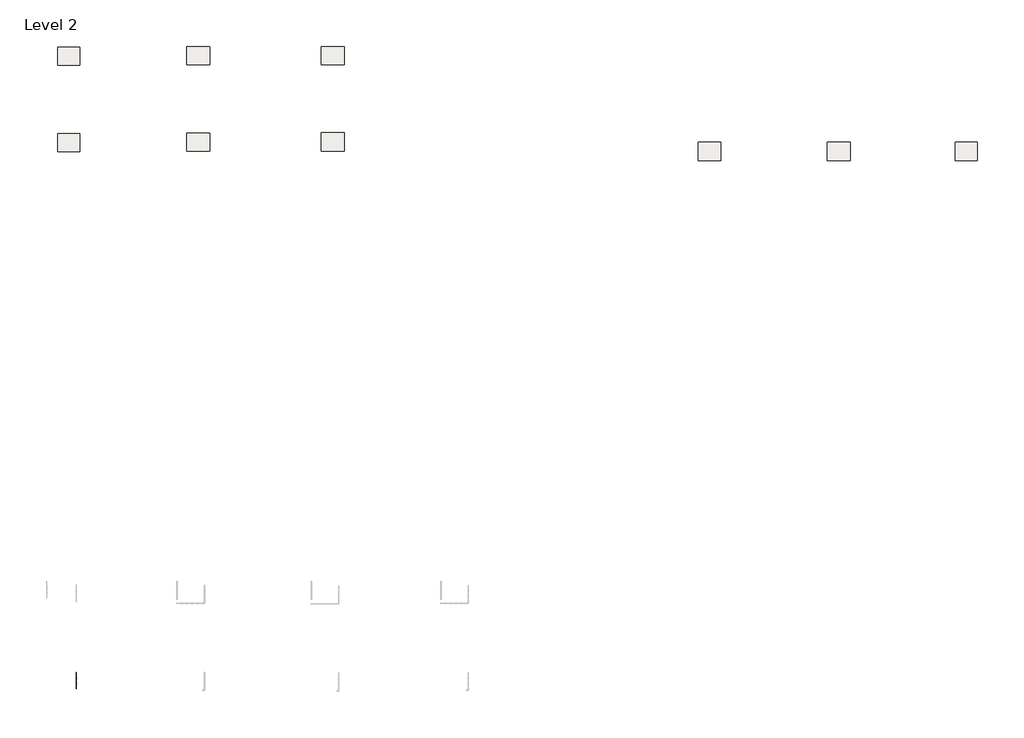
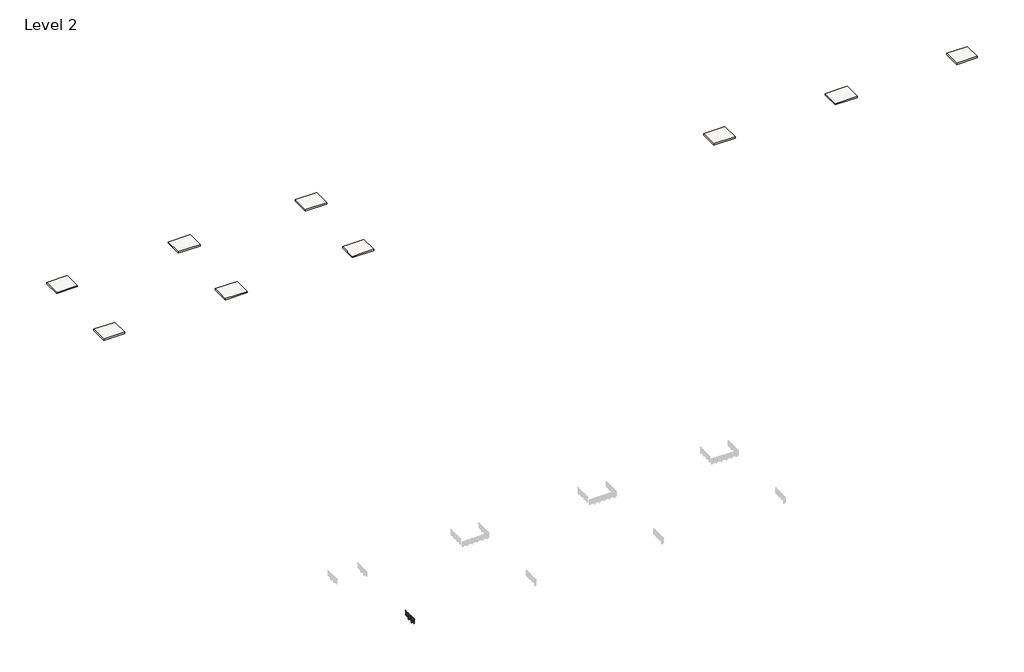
# One storey, part 1 of 21: 9 slabs, 1 railing.
"""IFC4 building model written with IfcOpenShell, lengths in millimetres."""

from ifc_helpers import new_model, si_unit, point, frame, frame_2d, origin, place, context, project, spatial, polyline, circle_curve, ellipse_curve, trimmed, segment, composite_curve, outline, extrude, element, save
from ifc_brep_helpers import plane_surface, cylinder_surface, revolved_surface, advanced_brep

model = new_model("IFC4")

# Units and contexts
model_context = context("Model", 3, world=origin())
ifc_project = project(units=[si_unit("LENGTHUNIT", "METRE", prefix="MILLI")], contexts=[model_context])

# Site, building, storey
site = spatial("IfcSite", under=ifc_project)
building = spatial("IfcBuilding", under=site)
storey = spatial("IfcBuildingStorey", under=building, Name="Level 2", Elevation=3048.0)

# Railing
placement = place(None, origin())
element("IfcRailing", 1, ObjectType="VIVA-CIRCA-Multiline-Cable-Fascia Mount-Straight", at=placement, inside=storey, context=model_context, shape_type="SolidModel", body=[
    advanced_brep(
    [(-3550.7164794, -68412.4065761, 4102.1), (-3601.5164794, -68412.4065761, 4102.1), (-3550.7164794, -65364.4065761, 4102.1), (-3601.5164794, -65364.4065761, 4102.1), (-3550.7164794, -65262.8065761, 4102.1), (-3601.5164794, -65262.8065761, 4102.1)],
    [
        (0, 1, circle_curve(frame((-3576.1164794, -68412.4065761, 4102.1), z_axis=(0.0, -1.0, 0.0), x_axis=(-1.0, 0.0, 0.0)), 25.4)),
        (1, 0, circle_curve(frame((-3576.1164794, -68412.4065761, 4102.1), z_axis=(0.0, -1.0, 0.0), x_axis=(-1.0, 0.0, 0.0)), 25.4)),
        (0, 2),
        (2, 3, circle_curve(frame((-3576.1164794, -65364.4065761, 4102.1), z_axis=(0.0, -1.0, 0.0), x_axis=(-1.0, 0.0, 0.0)), 25.4)),
        (3, 1),
        (3, 2, circle_curve(frame((-3576.1164794, -65364.4065761, 4102.1), z_axis=(0.0, -1.0, 0.0), x_axis=(-1.0, 0.0, 0.0)), 25.4)),
        (4, 5, circle_curve(frame((-3576.1164794, -65262.8065761, 4102.1), z_axis=(0.0, 1.0, 0.0), x_axis=(-1.0, 0.0, 0.0)), 25.4)),
        (5, 4, circle_curve(frame((-3576.1164794, -65262.8065761, 4102.1), z_axis=(0.0, 1.0, 0.0), x_axis=(-1.0, 0.0, 0.0)), 25.4)),
        (2, 4),
        (5, 3),
    ],
    [
        plane_surface(frame((-3576.1164794, -68412.4065761, 4127.5), z_axis=(0.0, -1.0, 0.0), x_axis=(0.0, 0.0, 1.0))),
        cylinder_surface(frame((-3576.1164794, -68412.4065761, 4102.1), z_axis=(0.0, -1.0, 0.0), x_axis=(-1.0, 0.0, 0.0)), 25.4),
        plane_surface(frame((-3576.1164794, -65262.8065761, 4127.5), z_axis=(0.0, 1.0, 0.0), x_axis=(0.0, 0.0, 1.0))),
        cylinder_surface(frame((-3576.1164794, -65364.4065761, 4102.1), z_axis=(0.0, -1.0, 0.0), x_axis=(-1.0, 0.0, 0.0)), 25.4),
    ],
    [
        (0, [[1, 2]]),
        (1, [[-1, 3, 4, 5]]),
        (1, [[-2, -5, 6, -3]]),
        (2, [[7, 8]]),
        (3, [[-4, 9, -8, 10]]),
        (3, [[-6, -10, -7, -9]]),
    ],
),
    extrude(outline(composite_curve([segment(trimmed(circle_curve(frame_2d((3972.7124, -3614.2164794)), 2.3876), [point((3972.7124, -3616.6040794))], [point((3972.7124, -3611.8288794))], False, "CARTESIAN"), True, "CONTINUOUS"), segment(trimmed(circle_curve(frame_2d((3972.7124, -3614.2164794)), 2.3876), [point((3972.7124, -3611.8288794))], [point((3972.7124, -3616.6040794))], False, "CARTESIAN"), True, "CONTINUOUS")], self_intersect=False)), frame((0.0, -68412.4065761, 0.0), z_axis=(0.0, 1.0, 0.0), x_axis=(0.0, 0.0, 1.0)), (0.0, 0.0, 1.0), 3048.0),
    extrude(outline(composite_curve([segment(trimmed(circle_curve(frame_2d((3877.4624, -3614.2164794)), 2.3876), [point((3877.4624, -3616.6040794))], [point((3877.4624, -3611.8288794))], False, "CARTESIAN"), True, "CONTINUOUS"), segment(trimmed(circle_curve(frame_2d((3877.4624, -3614.2164794)), 2.3876), [point((3877.4624, -3611.8288794))], [point((3877.4624, -3616.6040794))], False, "CARTESIAN"), True, "CONTINUOUS")], self_intersect=False)), frame((0.0, -68412.4065761, 0.0), z_axis=(0.0, 1.0, 0.0), x_axis=(0.0, 0.0, 1.0)), (0.0, 0.0, 1.0), 3048.0),
    extrude(outline(composite_curve([segment(trimmed(circle_curve(frame_2d((3782.2124, -3614.2164794)), 2.3876), [point((3782.2124, -3616.6040794))], [point((3782.2124, -3611.8288794))], False, "CARTESIAN"), True, "CONTINUOUS"), segment(trimmed(circle_curve(frame_2d((3782.2124, -3614.2164794)), 2.3876), [point((3782.2124, -3611.8288794))], [point((3782.2124, -3616.6040794))], False, "CARTESIAN"), True, "CONTINUOUS")], self_intersect=False)), frame((0.0, -68412.4065761, 0.0), z_axis=(0.0, 1.0, 0.0), x_axis=(0.0, 0.0, 1.0)), (0.0, 0.0, 1.0), 3048.0),
    extrude(outline(composite_curve([segment(trimmed(circle_curve(frame_2d((3686.9624, -3614.2164794)), 2.3876), [point((3686.9624, -3616.6040794))], [point((3686.9624, -3611.8288794))], False, "CARTESIAN"), True, "CONTINUOUS"), segment(trimmed(circle_curve(frame_2d((3686.9624, -3614.2164794)), 2.3876), [point((3686.9624, -3611.8288794))], [point((3686.9624, -3616.6040794))], False, "CARTESIAN"), True, "CONTINUOUS")], self_intersect=False)), frame((0.0, -68412.4065761, 0.0), z_axis=(0.0, 1.0, 0.0), x_axis=(0.0, 0.0, 1.0)), (0.0, 0.0, 1.0), 3048.0),
    extrude(outline(composite_curve([segment(trimmed(circle_curve(frame_2d((3591.7124, -3614.2164794)), 2.3876), [point((3591.7124, -3616.6040794))], [point((3591.7124, -3611.8288794))], False, "CARTESIAN"), True, "CONTINUOUS"), segment(trimmed(circle_curve(frame_2d((3591.7124, -3614.2164794)), 2.3876), [point((3591.7124, -3611.8288794))], [point((3591.7124, -3616.6040794))], False, "CARTESIAN"), True, "CONTINUOUS")], self_intersect=False)), frame((0.0, -68412.4065761, 0.0), z_axis=(0.0, 1.0, 0.0), x_axis=(0.0, 0.0, 1.0)), (0.0, 0.0, 1.0), 3048.0),
    extrude(outline(composite_curve([segment(trimmed(circle_curve(frame_2d((3496.4624, -3614.2164794)), 2.3876), [point((3496.4624, -3616.6040794))], [point((3496.4624, -3611.8288794))], False, "CARTESIAN"), True, "CONTINUOUS"), segment(trimmed(circle_curve(frame_2d((3496.4624, -3614.2164794)), 2.3876), [point((3496.4624, -3611.8288794))], [point((3496.4624, -3616.6040794))], False, "CARTESIAN"), True, "CONTINUOUS")], self_intersect=False)), frame((0.0, -68412.4065761, 0.0), z_axis=(0.0, 1.0, 0.0), x_axis=(0.0, 0.0, 1.0)), (0.0, 0.0, 1.0), 3048.0),
    extrude(outline(composite_curve([segment(trimmed(circle_curve(frame_2d((3413.9124, -3614.2164794)), 2.3876), [point((3413.9124, -3616.6040794))], [point((3413.9124, -3611.8288794))], False, "CARTESIAN"), True, "CONTINUOUS"), segment(trimmed(circle_curve(frame_2d((3413.9124, -3614.2164794)), 2.3876), [point((3413.9124, -3611.8288794))], [point((3413.9124, -3616.6040794))], False, "CARTESIAN"), True, "CONTINUOUS")], self_intersect=False)), frame((0.0, -68412.4065761, 0.0), z_axis=(0.0, 1.0, 0.0), x_axis=(0.0, 0.0, 1.0)), (0.0, 0.0, 1.0), 3048.0),
    extrude(outline(composite_curve([segment(trimmed(circle_curve(frame_2d((3318.6624, -3614.2164794)), 2.3876), [point((3318.6624, -3616.6040794))], [point((3318.6624, -3611.8288794))], False, "CARTESIAN"), True, "CONTINUOUS"), segment(trimmed(circle_curve(frame_2d((3318.6624, -3614.2164794)), 2.3876), [point((3318.6624, -3611.8288794))], [point((3318.6624, -3616.6040794))], False, "CARTESIAN"), True, "CONTINUOUS")], self_intersect=False)), frame((0.0, -68412.4065761, 0.0), z_axis=(0.0, 1.0, 0.0), x_axis=(0.0, 0.0, 1.0)), (0.0, 0.0, 1.0), 3048.0),
    extrude(outline(composite_curve([segment(trimmed(circle_curve(frame_2d((3223.4124, -3614.2164794)), 2.3876), [point((3223.4124, -3616.6040794))], [point((3223.4124, -3611.8288794))], False, "CARTESIAN"), True, "CONTINUOUS"), segment(trimmed(circle_curve(frame_2d((3223.4124, -3614.2164794)), 2.3876), [point((3223.4124, -3611.8288794))], [point((3223.4124, -3616.6040794))], False, "CARTESIAN"), True, "CONTINUOUS")], self_intersect=False)), frame((0.0, -68412.4065761, 0.0), z_axis=(0.0, 1.0, 0.0), x_axis=(0.0, 0.0, 1.0)), (0.0, 0.0, 1.0), 3048.0),
    extrude(outline(composite_curve([segment(trimmed(circle_curve(frame_2d((3128.1624, -3614.2164794)), 2.3876), [point((3128.1624, -3616.6040794))], [point((3128.1624, -3611.8288794))], False, "CARTESIAN"), True, "CONTINUOUS"), segment(trimmed(circle_curve(frame_2d((3128.1624, -3614.2164794)), 2.3876), [point((3128.1624, -3611.8288794))], [point((3128.1624, -3616.6040794))], False, "CARTESIAN"), True, "CONTINUOUS")], self_intersect=False)), frame((0.0, -68412.4065761, 0.0), z_axis=(0.0, 1.0, 0.0), x_axis=(0.0, 0.0, 1.0)), (0.0, 0.0, 1.0), 3048.0),
    extrude(outline(composite_curve([segment(trimmed(circle_curve(frame_2d((-66379.6128261, 3124.2)), 12.666458), [point((-66366.9463682, 3124.2))], [point((-66392.2792841, 3124.2))], False, "CARTESIAN"), True, "CONTINUOUS"), segment(trimmed(circle_curve(frame_2d((-66379.6128261, 3124.2)), 12.666458), [point((-66392.2792841, 3124.2))], [point((-66366.9463682, 3124.2))], False, "CARTESIAN"), True, "CONTINUOUS")], self_intersect=False)), frame((-3626.9164794, 0.0, 0.0), z_axis=(1.0, 0.0, 0.0), x_axis=(0.0, 1.0, 0.0)), (0.0, 0.0, 1.0), 50.8),
    extrude(outline(composite_curve([segment(trimmed(circle_curve(frame_2d((-66379.6128261, 3218.0388889)), 12.666458), [point((-66366.9463682, 3218.0388889))], [point((-66392.2792841, 3218.0388889))], False, "CARTESIAN"), True, "CONTINUOUS"), segment(trimmed(circle_curve(frame_2d((-66379.6128261, 3218.0388889)), 12.666458), [point((-66392.2792841, 3218.0388889))], [point((-66366.9463682, 3218.0388889))], False, "CARTESIAN"), True, "CONTINUOUS")], self_intersect=False)), frame((-3626.9164794, 0.0, 0.0), z_axis=(1.0, 0.0, 0.0), x_axis=(0.0, 1.0, 0.0)), (0.0, 0.0, 1.0), 50.8),
    extrude(outline(composite_curve([segment(trimmed(circle_curve(frame_2d((-66379.6128261, 3311.8777778)), 12.666458), [point((-66366.9463682, 3311.8777778))], [point((-66392.2792841, 3311.8777778))], False, "CARTESIAN"), True, "CONTINUOUS"), segment(trimmed(circle_curve(frame_2d((-66379.6128261, 3311.8777778)), 12.666458), [point((-66392.2792841, 3311.8777778))], [point((-66366.9463682, 3311.8777778))], False, "CARTESIAN"), True, "CONTINUOUS")], self_intersect=False)), frame((-3626.9164794, 0.0, 0.0), z_axis=(1.0, 0.0, 0.0), x_axis=(0.0, 1.0, 0.0)), (0.0, 0.0, 1.0), 50.8),
    extrude(outline(composite_curve([segment(trimmed(circle_curve(frame_2d((-66379.6128261, 3405.7166667)), 12.666458), [point((-66366.9463682, 3405.7166667))], [point((-66392.2792841, 3405.7166667))], False, "CARTESIAN"), True, "CONTINUOUS"), segment(trimmed(circle_curve(frame_2d((-66379.6128261, 3405.7166667)), 12.666458), [point((-66392.2792841, 3405.7166667))], [point((-66366.9463682, 3405.7166667))], False, "CARTESIAN"), True, "CONTINUOUS")], self_intersect=False)), frame((-3626.9164794, 0.0, 0.0), z_axis=(1.0, 0.0, 0.0), x_axis=(0.0, 1.0, 0.0)), (0.0, 0.0, 1.0), 50.8),
    extrude(outline(composite_curve([segment(trimmed(circle_curve(frame_2d((-66379.6128261, 3499.5555556)), 12.666458), [point((-66366.9463682, 3499.5555556))], [point((-66392.2792841, 3499.5555556))], False, "CARTESIAN"), True, "CONTINUOUS"), segment(trimmed(circle_curve(frame_2d((-66379.6128261, 3499.5555556)), 12.666458), [point((-66392.2792841, 3499.5555556))], [point((-66366.9463682, 3499.5555556))], False, "CARTESIAN"), True, "CONTINUOUS")], self_intersect=False)), frame((-3626.9164794, 0.0, 0.0), z_axis=(1.0, 0.0, 0.0), x_axis=(0.0, 1.0, 0.0)), (0.0, 0.0, 1.0), 50.8),
    extrude(outline(composite_curve([segment(trimmed(circle_curve(frame_2d((-66379.6128261, 3593.3944444)), 12.666458), [point((-66366.9463682, 3593.3944444))], [point((-66392.2792841, 3593.3944444))], False, "CARTESIAN"), True, "CONTINUOUS"), segment(trimmed(circle_curve(frame_2d((-66379.6128261, 3593.3944444)), 12.666458), [point((-66392.2792841, 3593.3944444))], [point((-66366.9463682, 3593.3944444))], False, "CARTESIAN"), True, "CONTINUOUS")], self_intersect=False)), frame((-3626.9164794, 0.0, 0.0), z_axis=(1.0, 0.0, 0.0), x_axis=(0.0, 1.0, 0.0)), (0.0, 0.0, 1.0), 50.8),
    extrude(outline(composite_curve([segment(trimmed(circle_curve(frame_2d((-66379.6128261, 3687.2333333)), 12.666458), [point((-66366.9463682, 3687.2333333))], [point((-66392.2792841, 3687.2333333))], False, "CARTESIAN"), True, "CONTINUOUS"), segment(trimmed(circle_curve(frame_2d((-66379.6128261, 3687.2333333)), 12.666458), [point((-66392.2792841, 3687.2333333))], [point((-66366.9463682, 3687.2333333))], False, "CARTESIAN"), True, "CONTINUOUS")], self_intersect=False)), frame((-3626.9164794, 0.0, 0.0), z_axis=(1.0, 0.0, 0.0), x_axis=(0.0, 1.0, 0.0)), (0.0, 0.0, 1.0), 50.8),
    extrude(outline(composite_curve([segment(trimmed(circle_curve(frame_2d((-66379.6128261, 3781.0722222)), 12.666458), [point((-66366.9463682, 3781.0722222))], [point((-66392.2792841, 3781.0722222))], False, "CARTESIAN"), True, "CONTINUOUS"), segment(trimmed(circle_curve(frame_2d((-66379.6128261, 3781.0722222)), 12.666458), [point((-66392.2792841, 3781.0722222))], [point((-66366.9463682, 3781.0722222))], False, "CARTESIAN"), True, "CONTINUOUS")], self_intersect=False)), frame((-3626.9164794, 0.0, 0.0), z_axis=(1.0, 0.0, 0.0), x_axis=(0.0, 1.0, 0.0)), (0.0, 0.0, 1.0), 50.8),
    extrude(outline(composite_curve([segment(trimmed(circle_curve(frame_2d((-66379.6128261, 3968.75)), 12.666458), [point((-66366.9463682, 3968.75))], [point((-66392.2792841, 3968.75))], False, "CARTESIAN"), True, "CONTINUOUS"), segment(trimmed(circle_curve(frame_2d((-66379.6128261, 3968.75)), 12.666458), [point((-66392.2792841, 3968.75))], [point((-66366.9463682, 3968.75))], False, "CARTESIAN"), True, "CONTINUOUS")], self_intersect=False)), frame((-3626.9164794, 0.0, 0.0), z_axis=(1.0, 0.0, 0.0), x_axis=(0.0, 1.0, 0.0)), (0.0, 0.0, 1.0), 50.8),
    extrude(outline(composite_curve([segment(trimmed(circle_curve(frame_2d((-66379.6128261, 3874.9111111)), 12.666458), [point((-66366.9463682, 3874.9111111))], [point((-66392.2792841, 3874.9111111))], False, "CARTESIAN"), True, "CONTINUOUS"), segment(trimmed(circle_curve(frame_2d((-66379.6128261, 3874.9111111)), 12.666458), [point((-66392.2792841, 3874.9111111))], [point((-66366.9463682, 3874.9111111))], False, "CARTESIAN"), True, "CONTINUOUS")], self_intersect=False)), frame((-3626.9164794, 0.0, 0.0), z_axis=(1.0, 0.0, 0.0), x_axis=(0.0, 1.0, 0.0)), (0.0, 0.0, 1.0), 50.8),
    extrude(outline(composite_curve([segment(trimmed(circle_curve(frame_2d((4103.4254922, -3576.2132077)), 25.4345159), [point((4081.3106679, -3563.6494049))], [point((4081.2157471, -3588.6084415))], True, "CARTESIAN"), True, "CONTINUOUS"), segment(trimmed(circle_curve(frame_2d((4078.7132623, -3589.8530946)), 2.7949225), [point((4081.2157471, -3588.6084415))], [point((4076.3406769, -3591.3303997))], False, "CARTESIAN"), True, "CONTINUOUS"), segment(trimmed(circle_curve(frame_2d((4104.1881188, -3576.0797447)), 31.75), [point((4076.3406769, -3591.3303997))], [point((4076.9214354, -3559.8135074))], False, "CARTESIAN"), True, "CONTINUOUS"), segment(trimmed(circle_curve(frame_2d((4078.7923545, -3562.1018472)), 2.9558141), [point((4076.9214354, -3559.8135074))], [point((4081.3106679, -3563.6494049))], False, "CARTESIAN"), True, "CONTINUOUS")], self_intersect=False)), frame((0.0, -66425.2471011, 0.0), z_axis=(0.0, 1.0, 0.0), x_axis=(0.0, 0.0, 1.0)), (0.0, 0.0, 1.0), 90.4748),
    advanced_brep(
    [(-3578.6564794, -66352.9417862, 4072.6506908), (-3578.6564794, -66367.3097011, 4058.282776), (-3578.6564794, -66392.7097011, 4058.282776), (-3578.6564794, -66407.077616, 4072.6506908), (-3573.5764794, -66352.9417862, 4072.6506908), (-3573.5764794, -66407.077616, 4072.6506908), (-3573.5764794, -66392.7097011, 4058.282776), (-3573.5764794, -66367.3097011, 4058.282776)],
    [
        (0, 1, circle_curve(frame((-3578.6564794, -66352.9417862, 4058.282776), z_axis=(1.0, 0.0, 0.0), x_axis=(0.0, -1.0, 0.0)), 14.3679149)),
        (1, 2, circle_curve(frame((-3578.6564794, -66380.0097011, 4058.282776), z_axis=(-1.0, 0.0, 0.0), x_axis=(0.0, -1.0, 0.0)), 12.7)),
        (2, 3, circle_curve(frame((-3578.6564794, -66407.077616, 4058.282776), z_axis=(1.0, 0.0, 0.0), x_axis=(0.0, -1.0, 0.0)), 14.3679149)),
        (3, 0),
        (4, 5),
        (5, 6, circle_curve(frame((-3573.5764794, -66407.077616, 4058.282776), z_axis=(-1.0, 0.0, 0.0), x_axis=(0.0, -1.0, 0.0)), 14.3679149)),
        (6, 7, circle_curve(frame((-3573.5764794, -66380.0097011, 4058.282776), z_axis=(1.0, 0.0, 0.0), x_axis=(0.0, -1.0, 0.0)), 12.7)),
        (7, 4, circle_curve(frame((-3573.5764794, -66352.9417862, 4058.282776), z_axis=(-1.0, 0.0, 0.0), x_axis=(0.0, -1.0, 0.0)), 14.3679149)),
        (0, 4),
        (7, 1),
        (6, 2),
        (5, 3),
    ],
    [
        plane_surface(frame((-3578.6564794, -66367.3097011, 4058.282776), z_axis=(-1.0, 0.0, 0.0), x_axis=(0.0, 0.0, -1.0))),
        plane_surface(frame((-3573.5764794, -66367.3097011, 4058.282776), z_axis=(1.0, 0.0, 0.0), x_axis=(0.0, 0.0, 1.0))),
        revolved_surface(polyline([(-3573.5764794, -66367.30970109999, 4058.282776), (-3578.6564794, -66367.30970109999, 4058.282776)]), (-3573.5764794, -66352.9417862, 4058.282776), (1.0, 0.0, 0.0)),
        cylinder_surface(frame((-3573.5764794, -66380.0097011, 4058.282776), z_axis=(-1.0, 0.0, 0.0), x_axis=(0.0, -1.0, 0.0)), 12.7),
        revolved_surface(polyline([(-3573.5764794, -66421.44553089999, 4058.282776), (-3578.6564794, -66421.44553089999, 4058.282776)]), (-3573.5764794, -66407.077616, 4058.282776), (1.0, 0.0, 0.0)),
        plane_surface(frame((-3578.6564794, -66407.077616, 4072.6506908), z_axis=(0.0, 0.0, 1.0), x_axis=(1.0, 0.0, 0.0))),
    ],
    [
        (0, [[1, 2, 3, 4]]),
        (1, [[5, 6, 7, 8]]),
        (2, [[-1, 9, -8, 10]]),
        (3, [[-2, -10, -7, 11]]),
        (4, [[-3, -11, -6, 12]]),
        (5, [[-4, -12, -5, -9]]),
    ],
),
    extrude(outline(polyline([(-3630.629515, -66316.5097011), (-3620.647315, -66316.5097011), (-3620.647315, -66443.5097011), (-3630.629515, -66443.5097011), (-3630.629515, -66316.5097011)])), frame((0.0, 0.0, 2838.45), z_axis=(0.0, 0.0, 1.0), x_axis=(1.0, 0.0, 0.0)), (0.0, 0.0, 1.0), 152.4),
    extrude(outline(composite_curve([segment(polyline([(-3620.647315, -66411.7597011), (-3620.647315, -66348.2597011), (-3566.9202979, -66348.2597011)]), True, "CONTINUOUS"), segment(trimmed(circle_curve(frame_2d((-3576.1164794, -66380.0097011)), 33.0549883), [point((-3566.9202979, -66348.2597011))], [point((-3566.9202979, -66411.7597011))], False, "CARTESIAN"), True, "CONTINUOUS"), segment(polyline([(-3566.9202979, -66411.7597011), (-3620.647315, -66411.7597011)]), True, "CONTINUOUS")], self_intersect=False)), frame((0.0, 0.0, 2865.4375), z_axis=(0.0, 0.0, 1.0), x_axis=(1.0, 0.0, 0.0)), (0.0, 0.0, 1.0), 9.525),
    extrude(outline(composite_curve([segment(polyline([(-3620.647315, -66411.7597011), (-3620.647315, -66348.2597011), (-3566.9202979, -66348.2597011)]), True, "CONTINUOUS"), segment(trimmed(circle_curve(frame_2d((-3576.1164794, -66380.0097011)), 33.0549883), [point((-3566.9202979, -66348.2597011))], [point((-3566.9202979, -66411.7597011))], False, "CARTESIAN"), True, "CONTINUOUS"), segment(polyline([(-3566.9202979, -66411.7597011), (-3620.647315, -66411.7597011)]), True, "CONTINUOUS")], self_intersect=False)), frame((0.0, 0.0, 2954.3375), z_axis=(0.0, 0.0, 1.0), x_axis=(1.0, 0.0, 0.0)), (0.0, 0.0, 1.0), 9.525),
    extrude(outline(composite_curve([segment(trimmed(circle_curve(frame_2d((-66319.0497011, 2988.31)), 2.54), [point((-66319.0497011, 2990.85))], [point((-66316.5097011, 2988.31))], False, "CARTESIAN"), True, "CONTINUOUS"), segment(polyline([(-66316.5097011, 2988.31), (-66316.5097011, 2840.99)]), True, "CONTINUOUS"), segment(trimmed(circle_curve(frame_2d((-66319.0497011, 2840.99)), 2.54), [point((-66316.5097011, 2840.99))], [point((-66319.0497011, 2838.45))], False, "CARTESIAN"), True, "CONTINUOUS"), segment(polyline([(-66319.0497011, 2838.45), (-66440.9697011, 2838.45)]), True, "CONTINUOUS"), segment(trimmed(circle_curve(frame_2d((-66440.9697011, 2840.99)), 2.54), [point((-66440.9697011, 2838.45))], [point((-66443.5097011, 2840.99))], False, "CARTESIAN"), True, "CONTINUOUS"), segment(polyline([(-66443.5097011, 2840.99), (-66443.5097011, 2988.31)]), True, "CONTINUOUS"), segment(trimmed(circle_curve(frame_2d((-66440.9697011, 2988.31)), 2.54), [point((-66443.5097011, 2988.31))], [point((-66440.9697011, 2990.85))], False, "CARTESIAN"), True, "CONTINUOUS"), segment(polyline([(-66440.9697011, 2990.85), (-66319.0497011, 2990.85)]), True, "CONTINUOUS")], self_intersect=False), holes=[composite_curve([segment(trimmed(circle_curve(frame_2d((-66424.4597011, 2971.8)), 5.55625), [point((-66418.9034511, 2971.8))], [point((-66430.0159511, 2971.8))], True, "CARTESIAN"), True, "CONTINUOUS"), segment(trimmed(circle_curve(frame_2d((-66424.4597011, 2971.8)), 5.55625), [point((-66430.0159511, 2971.8))], [point((-66418.9034511, 2971.8))], True, "CARTESIAN"), True, "CONTINUOUS")], self_intersect=False), composite_curve([segment(trimmed(circle_curve(frame_2d((-66335.5597011, 2971.8)), 5.55625), [point((-66330.0034511, 2971.8))], [point((-66341.1159511, 2971.8))], True, "CARTESIAN"), True, "CONTINUOUS"), segment(trimmed(circle_curve(frame_2d((-66335.5597011, 2971.8)), 5.55625), [point((-66341.1159511, 2971.8))], [point((-66330.0034511, 2971.8))], True, "CARTESIAN"), True, "CONTINUOUS")], self_intersect=False), composite_curve([segment(trimmed(circle_curve(frame_2d((-66335.5597011, 2857.5)), 5.55625), [point((-66330.0034511, 2857.5))], [point((-66341.1159511, 2857.5))], True, "CARTESIAN"), True, "CONTINUOUS"), segment(trimmed(circle_curve(frame_2d((-66335.5597011, 2857.5)), 5.55625), [point((-66341.1159511, 2857.5))], [point((-66330.0034511, 2857.5))], True, "CARTESIAN"), True, "CONTINUOUS")], self_intersect=False), composite_curve([segment(trimmed(circle_curve(frame_2d((-66424.4597011, 2857.5)), 5.55625), [point((-66418.9034511, 2857.5))], [point((-66430.0159511, 2857.5))], True, "CARTESIAN"), True, "CONTINUOUS"), segment(trimmed(circle_curve(frame_2d((-66424.4597011, 2857.5)), 5.55625), [point((-66430.0159511, 2857.5))], [point((-66418.9034511, 2857.5))], True, "CARTESIAN"), True, "CONTINUOUS")], self_intersect=False)]), frame((-3620.647315, 0.0, 0.0), z_axis=(1.0, 0.0, 0.0), x_axis=(0.0, 1.0, 0.0)), (0.0, 0.0, 1.0), 9.9822),
    advanced_brep(
    [(-3550.7170816, -66380.0097011, 3989.1347854), (-3601.5158772, -66380.0097011, 3989.1347854), (-3601.5158772, -66380.0097011, 2874.9498), (-3550.7170816, -66380.0097011, 2874.9498), (-3563.3785108, -66380.0097011, 4027.3486202), (-3588.8544479, -66380.0097011, 4027.3486202), (-3563.3785108, -66380.0097011, 4056.5779599), (-3588.8544479, -66380.0097011, 4056.5779599), (-3576.1164794, -66380.0097011, 4063.238668), (-3576.1164794, -66380.0097011, 2874.9498)],
    [
        (0, 1, circle_curve(frame((-3576.1164794, -66380.0097011, 3989.1347854), z_axis=(0.0, 0.0, -1.0), x_axis=(-1.0, 0.0, 0.0)), 25.3993978)),
        (1, 2),
        (2, 3, circle_curve(frame((-3576.1164794, -66380.0097011, 2874.9498), z_axis=(0.0, 0.0, 1.0), x_axis=(-1.0, 0.0, 0.0)), 25.3993978)),
        (3, 0),
        (1, 0, circle_curve(frame((-3576.1164794, -66380.0097011, 3989.1347854), z_axis=(0.0, 0.0, -1.0), x_axis=(-1.0, 0.0, 0.0)), 25.3993978)),
        (3, 2, circle_curve(frame((-3576.1164794, -66380.0097011, 2874.9498), z_axis=(0.0, 0.0, 1.0), x_axis=(-1.0, 0.0, 0.0)), 25.3993978)),
        (4, 5, circle_curve(frame((-3576.1164794, -66380.0097011, 4027.3486202), z_axis=(0.0, 0.0, -1.0), x_axis=(-1.0, 0.0, 0.0)), 12.7379685)),
        (5, 1, circle_curve(frame((-3652.8523162, -66380.0097011, 4027.3486202), z_axis=(0.0, 1.0, 0.0), x_axis=(-1.0, 0.0, 0.0)), 63.9978683)),
        (0, 4, circle_curve(frame((-3499.3806425, -66380.0097011, 4027.3486202), z_axis=(0.0, 1.0, 0.0), x_axis=(1.0, 0.0, 0.0)), 63.9978683)),
        (5, 4, circle_curve(frame((-3576.1164794, -66380.0097011, 4027.3486202), z_axis=(0.0, 0.0, -1.0), x_axis=(-1.0, 0.0, 0.0)), 12.7379685)),
        (6, 7, circle_curve(frame((-3576.1164794, -66380.0097011, 4056.5779599), z_axis=(0.0, 0.0, -1.0), x_axis=(-1.0, 0.0, 0.0)), 12.7379685)),
        (7, 5),
        (4, 6),
        (7, 6, circle_curve(frame((-3576.1164794, -66380.0097011, 4056.5779599), z_axis=(0.0, 0.0, -1.0), x_axis=(-1.0, 0.0, 0.0)), 12.7379685)),
        (8, 7, circle_curve(frame((-3576.1164794, -66380.0097011, 4047.7282394), z_axis=(0.0, -1.0, 0.0), x_axis=(-1.0, 0.0, 0.0)), 15.5104286)),
        (6, 8, circle_curve(frame((-3576.1164794, -66380.0097011, 4047.7282394), z_axis=(0.0, -1.0, 0.0), x_axis=(1.0, 0.0, 0.0)), 15.5104286)),
        (2, 9),
        (9, 3),
    ],
    [
        cylinder_surface(frame((-3576.1164794, -66380.0097011, 4152.9), z_axis=(0.0, 0.0, 1.0), x_axis=(-1.0, 0.0, 0.0)), 25.3993978),
        revolved_surface(trimmed(ellipse_curve(frame((-3652.8523162, -66380.0097011, 4027.3486202), z_axis=(0.0, -1.0, 0.0), x_axis=(-1.0, 0.0, 0.0)), 63.9978683, 63.9978683), [point((-3601.5158772, -66380.0097011, 3989.1347854))], [point((-3588.8544479, -66380.0097011, 4027.3486202))], True, "CARTESIAN"), (-3576.1164794, -66380.0097011, 4152.9), (0.0, 0.0, 1.0)),
        cylinder_surface(frame((-3576.1164794, -66380.0097011, 4152.9), z_axis=(0.0, 0.0, 1.0), x_axis=(-1.0, 0.0, 0.0)), 12.7379685),
        revolved_surface(trimmed(ellipse_curve(frame((-3576.1164794, -66380.0097011, 4047.7282394), z_axis=(0.0, 1.0, 0.0), x_axis=(-1.0, 0.0, 0.0)), 15.5104286, 15.5104286), [point((-3588.8544479, -66380.0097011, 4056.5779599))], [point((-3576.1164794, -66380.0097011, 4063.238668))], True, "CARTESIAN"), (-3576.1164794, -66380.0097011, 4152.9), (0.0, 0.0, 1.0)),
        plane_surface(frame((-3576.1164794, -66380.0097011, 2874.9498), z_axis=(0.0, 0.0, -1.0), x_axis=(-1.0, 0.0, 0.0))),
    ],
    [
        (0, [[1, 2, 3, 4]]),
        (0, [[5, -4, 6, -2]]),
        (1, [[7, 8, -1, 9]]),
        (1, [[10, -9, -5, -8]]),
        (2, [[11, 12, -7, 13]]),
        (2, [[14, -13, -10, -12]]),
        (3, [[15, -11, 16]]),
        (3, [[-16, -14, -15]]),
        (4, [[-3, 17, 18]]),
        (4, [[-6, -18, -17]]),
    ],
),
    extrude(outline(composite_curve([segment(trimmed(circle_curve(frame_2d((-67395.6128261, 3124.2)), 12.666458), [point((-67382.9463682, 3124.2))], [point((-67408.2792841, 3124.2))], False, "CARTESIAN"), True, "CONTINUOUS"), segment(trimmed(circle_curve(frame_2d((-67395.6128261, 3124.2)), 12.666458), [point((-67408.2792841, 3124.2))], [point((-67382.9463682, 3124.2))], False, "CARTESIAN"), True, "CONTINUOUS")], self_intersect=False)), frame((-3626.9164794, 0.0, 0.0), z_axis=(1.0, 0.0, 0.0), x_axis=(0.0, 1.0, 0.0)), (0.0, 0.0, 1.0), 50.8),
    extrude(outline(composite_curve([segment(trimmed(circle_curve(frame_2d((-67395.6128261, 3218.0388889)), 12.666458), [point((-67382.9463682, 3218.0388889))], [point((-67408.2792841, 3218.0388889))], False, "CARTESIAN"), True, "CONTINUOUS"), segment(trimmed(circle_curve(frame_2d((-67395.6128261, 3218.0388889)), 12.666458), [point((-67408.2792841, 3218.0388889))], [point((-67382.9463682, 3218.0388889))], False, "CARTESIAN"), True, "CONTINUOUS")], self_intersect=False)), frame((-3626.9164794, 0.0, 0.0), z_axis=(1.0, 0.0, 0.0), x_axis=(0.0, 1.0, 0.0)), (0.0, 0.0, 1.0), 50.8),
    extrude(outline(composite_curve([segment(trimmed(circle_curve(frame_2d((-67395.6128261, 3311.8777778)), 12.666458), [point((-67382.9463682, 3311.8777778))], [point((-67408.2792841, 3311.8777778))], False, "CARTESIAN"), True, "CONTINUOUS"), segment(trimmed(circle_curve(frame_2d((-67395.6128261, 3311.8777778)), 12.666458), [point((-67408.2792841, 3311.8777778))], [point((-67382.9463682, 3311.8777778))], False, "CARTESIAN"), True, "CONTINUOUS")], self_intersect=False)), frame((-3626.9164794, 0.0, 0.0), z_axis=(1.0, 0.0, 0.0), x_axis=(0.0, 1.0, 0.0)), (0.0, 0.0, 1.0), 50.8),
    extrude(outline(composite_curve([segment(trimmed(circle_curve(frame_2d((-67395.6128261, 3405.7166667)), 12.666458), [point((-67382.9463682, 3405.7166667))], [point((-67408.2792841, 3405.7166667))], False, "CARTESIAN"), True, "CONTINUOUS"), segment(trimmed(circle_curve(frame_2d((-67395.6128261, 3405.7166667)), 12.666458), [point((-67408.2792841, 3405.7166667))], [point((-67382.9463682, 3405.7166667))], False, "CARTESIAN"), True, "CONTINUOUS")], self_intersect=False)), frame((-3626.9164794, 0.0, 0.0), z_axis=(1.0, 0.0, 0.0), x_axis=(0.0, 1.0, 0.0)), (0.0, 0.0, 1.0), 50.8),
    extrude(outline(composite_curve([segment(trimmed(circle_curve(frame_2d((-67395.6128261, 3499.5555556)), 12.666458), [point((-67382.9463682, 3499.5555556))], [point((-67408.2792841, 3499.5555556))], False, "CARTESIAN"), True, "CONTINUOUS"), segment(trimmed(circle_curve(frame_2d((-67395.6128261, 3499.5555556)), 12.666458), [point((-67408.2792841, 3499.5555556))], [point((-67382.9463682, 3499.5555556))], False, "CARTESIAN"), True, "CONTINUOUS")], self_intersect=False)), frame((-3626.9164794, 0.0, 0.0), z_axis=(1.0, 0.0, 0.0), x_axis=(0.0, 1.0, 0.0)), (0.0, 0.0, 1.0), 50.8),
    extrude(outline(composite_curve([segment(trimmed(circle_curve(frame_2d((-67395.6128261, 3593.3944444)), 12.666458), [point((-67382.9463682, 3593.3944444))], [point((-67408.2792841, 3593.3944444))], False, "CARTESIAN"), True, "CONTINUOUS"), segment(trimmed(circle_curve(frame_2d((-67395.6128261, 3593.3944444)), 12.666458), [point((-67408.2792841, 3593.3944444))], [point((-67382.9463682, 3593.3944444))], False, "CARTESIAN"), True, "CONTINUOUS")], self_intersect=False)), frame((-3626.9164794, 0.0, 0.0), z_axis=(1.0, 0.0, 0.0), x_axis=(0.0, 1.0, 0.0)), (0.0, 0.0, 1.0), 50.8),
    extrude(outline(composite_curve([segment(trimmed(circle_curve(frame_2d((-67395.6128261, 3687.2333333)), 12.666458), [point((-67382.9463682, 3687.2333333))], [point((-67408.2792841, 3687.2333333))], False, "CARTESIAN"), True, "CONTINUOUS"), segment(trimmed(circle_curve(frame_2d((-67395.6128261, 3687.2333333)), 12.666458), [point((-67408.2792841, 3687.2333333))], [point((-67382.9463682, 3687.2333333))], False, "CARTESIAN"), True, "CONTINUOUS")], self_intersect=False)), frame((-3626.9164794, 0.0, 0.0), z_axis=(1.0, 0.0, 0.0), x_axis=(0.0, 1.0, 0.0)), (0.0, 0.0, 1.0), 50.8),
    extrude(outline(composite_curve([segment(trimmed(circle_curve(frame_2d((-67395.6128261, 3781.0722222)), 12.666458), [point((-67382.9463682, 3781.0722222))], [point((-67408.2792841, 3781.0722222))], False, "CARTESIAN"), True, "CONTINUOUS"), segment(trimmed(circle_curve(frame_2d((-67395.6128261, 3781.0722222)), 12.666458), [point((-67408.2792841, 3781.0722222))], [point((-67382.9463682, 3781.0722222))], False, "CARTESIAN"), True, "CONTINUOUS")], self_intersect=False)), frame((-3626.9164794, 0.0, 0.0), z_axis=(1.0, 0.0, 0.0), x_axis=(0.0, 1.0, 0.0)), (0.0, 0.0, 1.0), 50.8),
    extrude(outline(composite_curve([segment(trimmed(circle_curve(frame_2d((-67395.6128261, 3968.75)), 12.666458), [point((-67382.9463682, 3968.75))], [point((-67408.2792841, 3968.75))], False, "CARTESIAN"), True, "CONTINUOUS"), segment(trimmed(circle_curve(frame_2d((-67395.6128261, 3968.75)), 12.666458), [point((-67408.2792841, 3968.75))], [point((-67382.9463682, 3968.75))], False, "CARTESIAN"), True, "CONTINUOUS")], self_intersect=False)), frame((-3626.9164794, 0.0, 0.0), z_axis=(1.0, 0.0, 0.0), x_axis=(0.0, 1.0, 0.0)), (0.0, 0.0, 1.0), 50.8),
    extrude(outline(composite_curve([segment(trimmed(circle_curve(frame_2d((-67395.6128261, 3874.9111111)), 12.666458), [point((-67382.9463682, 3874.9111111))], [point((-67408.2792841, 3874.9111111))], False, "CARTESIAN"), True, "CONTINUOUS"), segment(trimmed(circle_curve(frame_2d((-67395.6128261, 3874.9111111)), 12.666458), [point((-67408.2792841, 3874.9111111))], [point((-67382.9463682, 3874.9111111))], False, "CARTESIAN"), True, "CONTINUOUS")], self_intersect=False)), frame((-3626.9164794, 0.0, 0.0), z_axis=(1.0, 0.0, 0.0), x_axis=(0.0, 1.0, 0.0)), (0.0, 0.0, 1.0), 50.8),
    extrude(outline(composite_curve([segment(trimmed(circle_curve(frame_2d((4103.4254922, -3576.2132077)), 25.4345159), [point((4081.3106679, -3563.6494049))], [point((4081.2157471, -3588.6084415))], True, "CARTESIAN"), True, "CONTINUOUS"), segment(trimmed(circle_curve(frame_2d((4078.7132623, -3589.8530946)), 2.7949225), [point((4081.2157471, -3588.6084415))], [point((4076.3406769, -3591.3303997))], False, "CARTESIAN"), True, "CONTINUOUS"), segment(trimmed(circle_curve(frame_2d((4104.1881188, -3576.0797447)), 31.75), [point((4076.3406769, -3591.3303997))], [point((4076.9214354, -3559.8135074))], False, "CARTESIAN"), True, "CONTINUOUS"), segment(trimmed(circle_curve(frame_2d((4078.7923545, -3562.1018472)), 2.9558141), [point((4076.9214354, -3559.8135074))], [point((4081.3106679, -3563.6494049))], False, "CARTESIAN"), True, "CONTINUOUS")], self_intersect=False)), frame((0.0, -67441.2471011, 0.0), z_axis=(0.0, 1.0, 0.0), x_axis=(0.0, 0.0, 1.0)), (0.0, 0.0, 1.0), 90.4748),
    advanced_brep(
    [(-3578.6564794, -67368.9417862, 4072.6506908), (-3578.6564794, -67383.3097011, 4058.282776), (-3578.6564794, -67408.7097011, 4058.282776), (-3578.6564794, -67423.077616, 4072.6506908), (-3573.5764794, -67368.9417862, 4072.6506908), (-3573.5764794, -67423.077616, 4072.6506908), (-3573.5764794, -67408.7097011, 4058.282776), (-3573.5764794, -67383.3097011, 4058.282776)],
    [
        (0, 1, circle_curve(frame((-3578.6564794, -67368.9417862, 4058.282776), z_axis=(1.0, 0.0, 0.0), x_axis=(0.0, -1.0, 0.0)), 14.3679149)),
        (1, 2, circle_curve(frame((-3578.6564794, -67396.0097011, 4058.282776), z_axis=(-1.0, 0.0, 0.0), x_axis=(0.0, -1.0, 0.0)), 12.7)),
        (2, 3, circle_curve(frame((-3578.6564794, -67423.077616, 4058.282776), z_axis=(1.0, 0.0, 0.0), x_axis=(0.0, -1.0, 0.0)), 14.3679149)),
        (3, 0),
        (4, 5),
        (5, 6, circle_curve(frame((-3573.5764794, -67423.077616, 4058.282776), z_axis=(-1.0, 0.0, 0.0), x_axis=(0.0, -1.0, 0.0)), 14.3679149)),
        (6, 7, circle_curve(frame((-3573.5764794, -67396.0097011, 4058.282776), z_axis=(1.0, 0.0, 0.0), x_axis=(0.0, -1.0, 0.0)), 12.7)),
        (7, 4, circle_curve(frame((-3573.5764794, -67368.9417862, 4058.282776), z_axis=(-1.0, 0.0, 0.0), x_axis=(0.0, -1.0, 0.0)), 14.3679149)),
        (0, 4),
        (7, 1),
        (6, 2),
        (5, 3),
    ],
    [
        plane_surface(frame((-3578.6564794, -67383.3097011, 4058.282776), z_axis=(-1.0, 0.0, 0.0), x_axis=(0.0, 0.0, -1.0))),
        plane_surface(frame((-3573.5764794, -67383.3097011, 4058.282776), z_axis=(1.0, 0.0, 0.0), x_axis=(0.0, 0.0, 1.0))),
        revolved_surface(polyline([(-3573.5764794, -67383.30970109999, 4058.282776), (-3578.6564794, -67383.30970109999, 4058.282776)]), (-3573.5764794, -67368.9417862, 4058.282776), (1.0, 0.0, 0.0)),
        cylinder_surface(frame((-3573.5764794, -67396.0097011, 4058.282776), z_axis=(-1.0, 0.0, 0.0), x_axis=(0.0, -1.0, 0.0)), 12.7),
        revolved_surface(polyline([(-3573.5764794, -67437.44553089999, 4058.282776), (-3578.6564794, -67437.44553089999, 4058.282776)]), (-3573.5764794, -67423.077616, 4058.282776), (1.0, 0.0, 0.0)),
        plane_surface(frame((-3578.6564794, -67423.077616, 4072.6506908), z_axis=(0.0, 0.0, 1.0), x_axis=(1.0, 0.0, 0.0))),
    ],
    [
        (0, [[1, 2, 3, 4]]),
        (1, [[5, 6, 7, 8]]),
        (2, [[-1, 9, -8, 10]]),
        (3, [[-2, -10, -7, 11]]),
        (4, [[-3, -11, -6, 12]]),
        (5, [[-4, -12, -5, -9]]),
    ],
),
    extrude(outline(polyline([(-3630.629515, -67332.5097011), (-3620.647315, -67332.5097011), (-3620.647315, -67459.5097011), (-3630.629515, -67459.5097011), (-3630.629515, -67332.5097011)])), frame((0.0, 0.0, 2838.45), z_axis=(0.0, 0.0, 1.0), x_axis=(1.0, 0.0, 0.0)), (0.0, 0.0, 1.0), 152.4),
    extrude(outline(composite_curve([segment(polyline([(-3620.647315, -67427.7597011), (-3620.647315, -67364.2597011), (-3566.9202979, -67364.2597011)]), True, "CONTINUOUS"), segment(trimmed(circle_curve(frame_2d((-3576.1164794, -67396.0097011)), 33.0549883), [point((-3566.9202979, -67364.2597011))], [point((-3566.9202979, -67427.7597011))], False, "CARTESIAN"), True, "CONTINUOUS"), segment(polyline([(-3566.9202979, -67427.7597011), (-3620.647315, -67427.7597011)]), True, "CONTINUOUS")], self_intersect=False)), frame((0.0, 0.0, 2865.4375), z_axis=(0.0, 0.0, 1.0), x_axis=(1.0, 0.0, 0.0)), (0.0, 0.0, 1.0), 9.525),
    extrude(outline(composite_curve([segment(polyline([(-3620.647315, -67427.7597011), (-3620.647315, -67364.2597011), (-3566.9202979, -67364.2597011)]), True, "CONTINUOUS"), segment(trimmed(circle_curve(frame_2d((-3576.1164794, -67396.0097011)), 33.0549883), [point((-3566.9202979, -67364.2597011))], [point((-3566.9202979, -67427.7597011))], False, "CARTESIAN"), True, "CONTINUOUS"), segment(polyline([(-3566.9202979, -67427.7597011), (-3620.647315, -67427.7597011)]), True, "CONTINUOUS")], self_intersect=False)), frame((0.0, 0.0, 2954.3375), z_axis=(0.0, 0.0, 1.0), x_axis=(1.0, 0.0, 0.0)), (0.0, 0.0, 1.0), 9.525),
    extrude(outline(composite_curve([segment(trimmed(circle_curve(frame_2d((-67335.0497011, 2988.31)), 2.54), [point((-67335.0497011, 2990.85))], [point((-67332.5097011, 2988.31))], False, "CARTESIAN"), True, "CONTINUOUS"), segment(polyline([(-67332.5097011, 2988.31), (-67332.5097011, 2840.99)]), True, "CONTINUOUS"), segment(trimmed(circle_curve(frame_2d((-67335.0497011, 2840.99)), 2.54), [point((-67332.5097011, 2840.99))], [point((-67335.0497011, 2838.45))], False, "CARTESIAN"), True, "CONTINUOUS"), segment(polyline([(-67335.0497011, 2838.45), (-67456.9697011, 2838.45)]), True, "CONTINUOUS"), segment(trimmed(circle_curve(frame_2d((-67456.9697011, 2840.99)), 2.54), [point((-67456.9697011, 2838.45))], [point((-67459.5097011, 2840.99))], False, "CARTESIAN"), True, "CONTINUOUS"), segment(polyline([(-67459.5097011, 2840.99), (-67459.5097011, 2988.31)]), True, "CONTINUOUS"), segment(trimmed(circle_curve(frame_2d((-67456.9697011, 2988.31)), 2.54), [point((-67459.5097011, 2988.31))], [point((-67456.9697011, 2990.85))], False, "CARTESIAN"), True, "CONTINUOUS"), segment(polyline([(-67456.9697011, 2990.85), (-67335.0497011, 2990.85)]), True, "CONTINUOUS")], self_intersect=False), holes=[composite_curve([segment(trimmed(circle_curve(frame_2d((-67440.4597011, 2971.8)), 5.55625), [point((-67434.9034511, 2971.8))], [point((-67446.0159511, 2971.8))], True, "CARTESIAN"), True, "CONTINUOUS"), segment(trimmed(circle_curve(frame_2d((-67440.4597011, 2971.8)), 5.55625), [point((-67446.0159511, 2971.8))], [point((-67434.9034511, 2971.8))], True, "CARTESIAN"), True, "CONTINUOUS")], self_intersect=False), composite_curve([segment(trimmed(circle_curve(frame_2d((-67351.5597011, 2971.8)), 5.55625), [point((-67346.0034511, 2971.8))], [point((-67357.1159511, 2971.8))], True, "CARTESIAN"), True, "CONTINUOUS"), segment(trimmed(circle_curve(frame_2d((-67351.5597011, 2971.8)), 5.55625), [point((-67357.1159511, 2971.8))], [point((-67346.0034511, 2971.8))], True, "CARTESIAN"), True, "CONTINUOUS")], self_intersect=False), composite_curve([segment(trimmed(circle_curve(frame_2d((-67351.5597011, 2857.5)), 5.55625), [point((-67346.0034511, 2857.5))], [point((-67357.1159511, 2857.5))], True, "CARTESIAN"), True, "CONTINUOUS"), segment(trimmed(circle_curve(frame_2d((-67351.5597011, 2857.5)), 5.55625), [point((-67357.1159511, 2857.5))], [point((-67346.0034511, 2857.5))], True, "CARTESIAN"), True, "CONTINUOUS")], self_intersect=False), composite_curve([segment(trimmed(circle_curve(frame_2d((-67440.4597011, 2857.5)), 5.55625), [point((-67434.9034511, 2857.5))], [point((-67446.0159511, 2857.5))], True, "CARTESIAN"), True, "CONTINUOUS"), segment(trimmed(circle_curve(frame_2d((-67440.4597011, 2857.5)), 5.55625), [point((-67446.0159511, 2857.5))], [point((-67434.9034511, 2857.5))], True, "CARTESIAN"), True, "CONTINUOUS")], self_intersect=False)]), frame((-3620.647315, 0.0, 0.0), z_axis=(1.0, 0.0, 0.0), x_axis=(0.0, 1.0, 0.0)), (0.0, 0.0, 1.0), 9.9822),
    advanced_brep(
    [(-3550.7170816, -67396.0097011, 3989.1347854), (-3601.5158772, -67396.0097011, 3989.1347854), (-3601.5158772, -67396.0097011, 2874.9498), (-3550.7170816, -67396.0097011, 2874.9498), (-3563.3785108, -67396.0097011, 4027.3486202), (-3588.8544479, -67396.0097011, 4027.3486202), (-3563.3785108, -67396.0097011, 4056.5779599), (-3588.8544479, -67396.0097011, 4056.5779599), (-3576.1164794, -67396.0097011, 4063.238668), (-3576.1164794, -67396.0097011, 2874.9498)],
    [
        (0, 1, circle_curve(frame((-3576.1164794, -67396.0097011, 3989.1347854), z_axis=(0.0, 0.0, -1.0), x_axis=(-1.0, 0.0, 0.0)), 25.3993978)),
        (1, 2),
        (2, 3, circle_curve(frame((-3576.1164794, -67396.0097011, 2874.9498), z_axis=(0.0, 0.0, 1.0), x_axis=(-1.0, 0.0, 0.0)), 25.3993978)),
        (3, 0),
        (1, 0, circle_curve(frame((-3576.1164794, -67396.0097011, 3989.1347854), z_axis=(0.0, 0.0, -1.0), x_axis=(-1.0, 0.0, 0.0)), 25.3993978)),
        (3, 2, circle_curve(frame((-3576.1164794, -67396.0097011, 2874.9498), z_axis=(0.0, 0.0, 1.0), x_axis=(-1.0, 0.0, 0.0)), 25.3993978)),
        (4, 5, circle_curve(frame((-3576.1164794, -67396.0097011, 4027.3486202), z_axis=(0.0, 0.0, -1.0), x_axis=(-1.0, 0.0, 0.0)), 12.7379685)),
        (5, 1, circle_curve(frame((-3652.8523162, -67396.0097011, 4027.3486202), z_axis=(0.0, 1.0, 0.0), x_axis=(-1.0, 0.0, 0.0)), 63.9978683)),
        (0, 4, circle_curve(frame((-3499.3806425, -67396.0097011, 4027.3486202), z_axis=(0.0, 1.0, 0.0), x_axis=(1.0, 0.0, 0.0)), 63.9978683)),
        (5, 4, circle_curve(frame((-3576.1164794, -67396.0097011, 4027.3486202), z_axis=(0.0, 0.0, -1.0), x_axis=(-1.0, 0.0, 0.0)), 12.7379685)),
        (6, 7, circle_curve(frame((-3576.1164794, -67396.0097011, 4056.5779599), z_axis=(0.0, 0.0, -1.0), x_axis=(-1.0, 0.0, 0.0)), 12.7379685)),
        (7, 5),
        (4, 6),
        (7, 6, circle_curve(frame((-3576.1164794, -67396.0097011, 4056.5779599), z_axis=(0.0, 0.0, -1.0), x_axis=(-1.0, 0.0, 0.0)), 12.7379685)),
        (8, 7, circle_curve(frame((-3576.1164794, -67396.0097011, 4047.7282394), z_axis=(0.0, -1.0, 0.0), x_axis=(-1.0, 0.0, 0.0)), 15.5104286)),
        (6, 8, circle_curve(frame((-3576.1164794, -67396.0097011, 4047.7282394), z_axis=(0.0, -1.0, 0.0), x_axis=(1.0, 0.0, 0.0)), 15.5104286)),
        (2, 9),
        (9, 3),
    ],
    [
        cylinder_surface(frame((-3576.1164794, -67396.0097011, 4152.9), z_axis=(0.0, 0.0, 1.0), x_axis=(-1.0, 0.0, 0.0)), 25.3993978),
        revolved_surface(trimmed(ellipse_curve(frame((-3652.8523162, -67396.0097011, 4027.3486202), z_axis=(0.0, -1.0, 0.0), x_axis=(-1.0, 0.0, 0.0)), 63.9978683, 63.9978683), [point((-3601.5158772, -67396.0097011, 3989.1347854))], [point((-3588.8544479, -67396.0097011, 4027.3486202))], True, "CARTESIAN"), (-3576.1164794, -67396.0097011, 4152.9), (0.0, 0.0, 1.0)),
        cylinder_surface(frame((-3576.1164794, -67396.0097011, 4152.9), z_axis=(0.0, 0.0, 1.0), x_axis=(-1.0, 0.0, 0.0)), 12.7379685),
        revolved_surface(trimmed(ellipse_curve(frame((-3576.1164794, -67396.0097011, 4047.7282394), z_axis=(0.0, 1.0, 0.0), x_axis=(-1.0, 0.0, 0.0)), 15.5104286, 15.5104286), [point((-3588.8544479, -67396.0097011, 4056.5779599))], [point((-3576.1164794, -67396.0097011, 4063.238668))], True, "CARTESIAN"), (-3576.1164794, -67396.0097011, 4152.9), (0.0, 0.0, 1.0)),
        plane_surface(frame((-3576.1164794, -67396.0097011, 2874.9498), z_axis=(0.0, 0.0, -1.0), x_axis=(-1.0, 0.0, 0.0))),
    ],
    [
        (0, [[1, 2, 3, 4]]),
        (0, [[5, -4, 6, -2]]),
        (1, [[7, 8, -1, 9]]),
        (1, [[10, -9, -5, -8]]),
        (2, [[11, 12, -7, 13]]),
        (2, [[14, -13, -10, -12]]),
        (3, [[15, -11, 16]]),
        (3, [[-16, -14, -15]]),
        (4, [[-3, 17, 18]]),
        (4, [[-6, -18, -17]]),
    ],
),
])

# Slabs
element("IfcSlab", 2, ObjectType="Generic - 7 3/4\"", at=placement, inside=storey, context=model_context, shape_type="SweptSolid", body=[
    extrude(outline(polyline([(47418.1290001, 34086.2052558), (43105.4291841, 34086.2052558), (43105.4291841, 37566.0052558), (47418.1290001, 37566.0052558), (47418.1290001, 34086.2052558)])), frame((0.0, 0.0, 2751.2264), z_axis=(0.0, 0.0, 1.0), x_axis=(1.0, 0.0, 0.0)), (0.0, 0.0, 1.0), 296.7736),
])
element("IfcSlab", 3, ObjectType="Generic - 7 3/4\"", at=placement, inside=storey, context=model_context, shape_type="SweptSolid", body=[
    extrude(outline(polyline([(21853.0290001, 34060.3929977), (17440.3166841, 34060.3929977), (17440.3166841, 37540.1929977), (21853.0290001, 37540.1929977), (21853.0290001, 34060.3929977)])), frame((0.0, 0.0, 2751.2264), z_axis=(0.0, 0.0, 1.0), x_axis=(1.0, 0.0, 0.0)), (0.0, 0.0, 1.0), 296.7736),
])
element("IfcSlab", 4, ObjectType="Generic - 7 3/4\"", at=placement, inside=storey, context=model_context, shape_type="SweptSolid", body=[
    extrude(outline(polyline([(-2919.1949777, 33983.202192), (-7135.5949777, 33983.202192), (-7135.5949777, 37463.002192), (-2919.1949777, 37463.002192), (-2919.1949777, 33983.202192)])), frame((0.0, 0.0, 2751.2264), z_axis=(0.0, 0.0, 1.0), x_axis=(1.0, 0.0, 0.0)), (0.0, 0.0, 1.0), 296.7736),
])
element("IfcSlab", 5, ObjectType="Generic - 7 3/4\"", at=placement, inside=storey, context=model_context, shape_type="SweptSolid", body=[
    extrude(outline(polyline([(47418.1290001, 50554.1186802), (43105.4291841, 50554.1186802), (43105.4291841, 54033.9186802), (47418.1290001, 54033.9186802), (47418.1290001, 50554.1186802)])), frame((0.0, 0.0, 2751.2264), z_axis=(0.0, 0.0, 1.0), x_axis=(1.0, 0.0, 0.0)), (0.0, 0.0, 1.0), 296.7736),
])
element("IfcSlab", 6, ObjectType="Generic - 7 3/4\"", at=placement, inside=storey, context=model_context, shape_type="SweptSolid", body=[
    extrude(outline(polyline([(21853.0290001, 50528.3064221), (17440.3166841, 50528.3064221), (17440.3166841, 54008.1064221), (21853.0290001, 54008.1064221), (21853.0290001, 50528.3064221)])), frame((0.0, 0.0, 2751.2264), z_axis=(0.0, 0.0, 1.0), x_axis=(1.0, 0.0, 0.0)), (0.0, 0.0, 1.0), 296.7736),
])
element("IfcSlab", 7, ObjectType="Generic - 7 3/4\"", at=placement, inside=storey, context=model_context, shape_type="SweptSolid", body=[
    extrude(outline(polyline([(-2919.1949777, 50451.1156164), (-7135.5949777, 50451.1156164), (-7135.5949777, 53930.9156164), (-2919.1949777, 53930.9156164), (-2919.1949777, 50451.1156164)])), frame((0.0, 0.0, 2751.2264), z_axis=(0.0, 0.0, 1.0), x_axis=(1.0, 0.0, 0.0)), (0.0, 0.0, 1.0), 296.7736),
])
element("IfcSlab", 8, ObjectType="Generic - 7 3/4\"", at=placement, inside=storey, context=model_context, shape_type="SweptSolid", body=[
    extrude(outline(polyline([(119195.8501322, 32256.0812523), (114883.1503162, 32256.0812523), (114883.1503162, 35786.6812523), (119195.8501322, 35786.6812523), (119195.8501322, 32256.0812523)])), frame((0.0, 0.0, 2751.2264), z_axis=(0.0, 0.0, 1.0), x_axis=(1.0, 0.0, 0.0)), (0.0, 0.0, 1.0), 296.7736),
])
element("IfcSlab", 9, ObjectType="Generic - 7 3/4\"", at=placement, inside=storey, context=model_context, shape_type="SweptSolid", body=[
    extrude(outline(polyline([(143845.8364042, 32281.4812523), (139433.1240883, 32281.4812523), (139433.1240883, 35761.2812523), (143845.8364042, 35761.2812523), (143845.8364042, 32281.4812523)])), frame((0.0, 0.0, 2751.2264), z_axis=(0.0, 0.0, 1.0), x_axis=(1.0, 0.0, 0.0)), (0.0, 0.0, 1.0), 296.7736),
])
element("IfcSlab", 10, ObjectType="Generic - 7 3/4\"", at=placement, inside=storey, context=model_context, shape_type="SweptSolid", body=[
    extrude(outline(polyline([(168095.4028142, 32281.4812523), (163879.0028142, 32281.4812523), (163879.0028142, 35761.2812523), (168095.4028142, 35761.2812523), (168095.4028142, 32281.4812523)])), frame((0.0, 0.0, 2751.2264), z_axis=(0.0, 0.0, 1.0), x_axis=(1.0, 0.0, 0.0)), (0.0, 0.0, 1.0), 296.7736),
])

save(model, "model.ifc")
